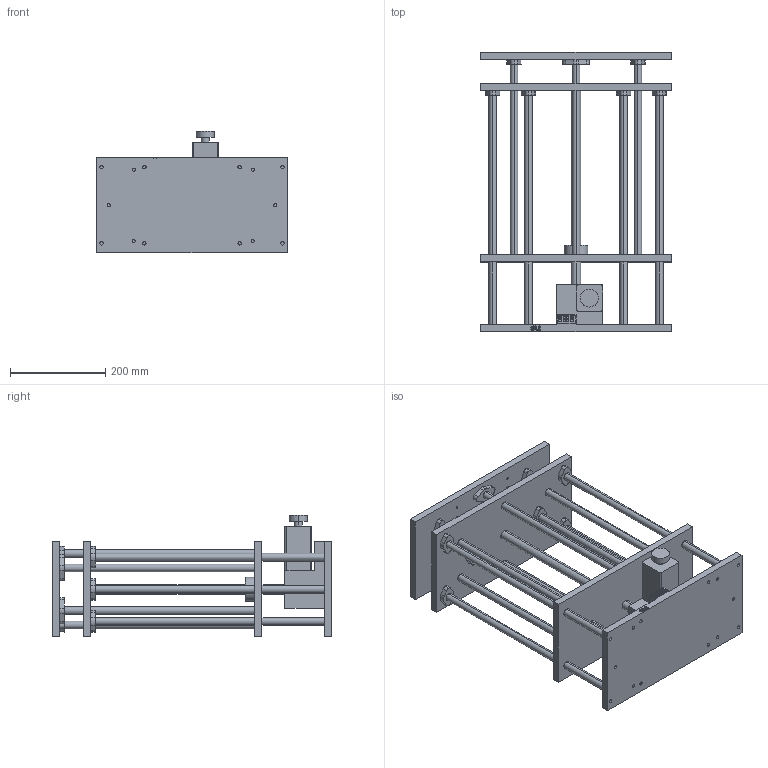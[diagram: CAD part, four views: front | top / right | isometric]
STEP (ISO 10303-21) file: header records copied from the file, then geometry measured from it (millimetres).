
FILE_DESCRIPTION (( 'STEP AP214' ), '1' );
FILE_NAME ('PS20-300.STEP', '2022-11-12T03:31:55', ( '' ), ( '' ), 'SwSTEP 2.0', 'SolidWorks 2017', '' );
FILE_SCHEMA (( 'AUTOMOTIVE_DESIGN' ));
Length unit declared in the file: millimetre
Products named in the file (1): PS20-300
Bounding box: 400 x 586 x 256 mm (x, y, z)
Volume: 7074039.1 mm3; surface area: 1067823 mm2
Topology: 1 solids, 1 shells, 687 faces, 1864 edges, 1242 vertices
Faces by surface type: plane 359, cylinder 242, bspline 84, cone 2
Entity records: 25932 total; most frequent: CARTESIAN_POINT 7990, ORIENTED_EDGE 3728, DIRECTION 3390, EDGE_CURVE 1864, VERTEX_POINT 1242, LINE 1210, VECTOR 1210, AXIS2_PLACEMENT_3D 1090
